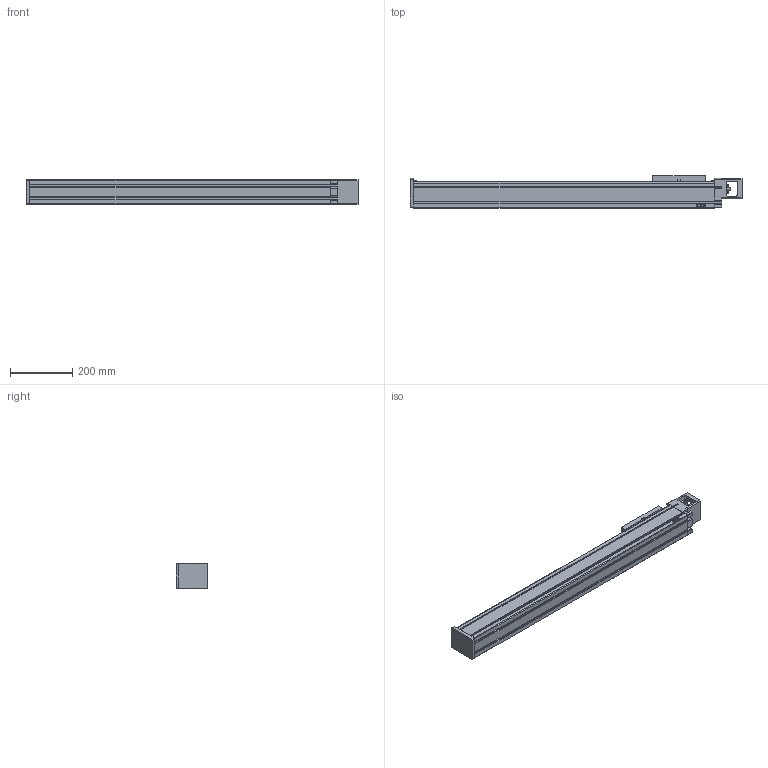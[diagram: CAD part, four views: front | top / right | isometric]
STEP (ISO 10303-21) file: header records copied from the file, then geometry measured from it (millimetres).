
FILE_DESCRIPTION(/* description */ (''),/* implementation_level */ '2;1');
FILE_NAME(/* name */ 'D:\混合母檔20191031\混和母檔\混和母檔\bin\Debug\Download\3D\KU80-20C-750AF0\KU80-20C-750AF0.stp',/* time_stamp */ '2019-11-04T17:26:26+08:00',/* author */ ('user'),/* organization */ (''),/* preprocessor_version */ 'ST-DEVELOPER v16.13',/* originating_system */ 'Autodesk Inventor 2018',/* authorisation */ '');
FILE_SCHEMA (('AUTOMOTIVE_DESIGN { 1 0 10303 214 3 1 1 }'));
Length unit declared in the file: millimetre
Products named in the file (3): KU80-20C-750AF0; KU80-F0-BP; KU80-SL
Assembly tree (2 placements, depth 2):
  KU80-20C-750AF0
    KU80-F0-BP
    KU80-SL
Bounding box: 1070 x 103 x 80 mm (x, y, z)
Volume: 6737999.1 mm3; surface area: 576342 mm2
Topology: 2 solids, 10 shells, 862 faces, 2315 edges, 1508 vertices
Faces by surface type: plane 509, bspline 136, cylinder 104, cone 81, torus 28, sphere 4
Full cylindrical faces by diameter (mm): 2.459 x4, 2.729 x4, 3 x4, 3.242 x4, 3.5 x4, 4.134 x16, 5 x4, 5.5 x8, 5.6 x2, 8 x1, 8.5 x4, 12 x1, 46.5 x1
Entity records: 27990 total; most frequent: CARTESIAN_POINT 7413, ORIENTED_EDGE 4362, DIRECTION 3790, EDGE_CURVE 2181, VERTEX_POINT 1469, LINE 1298, VECTOR 1298, AXIS2_PLACEMENT_3D 1246
